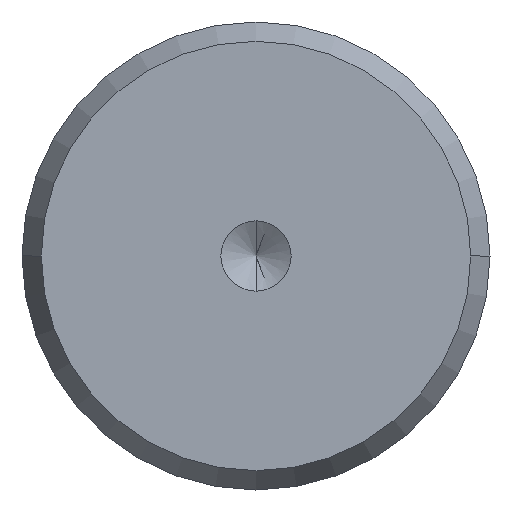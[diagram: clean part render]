
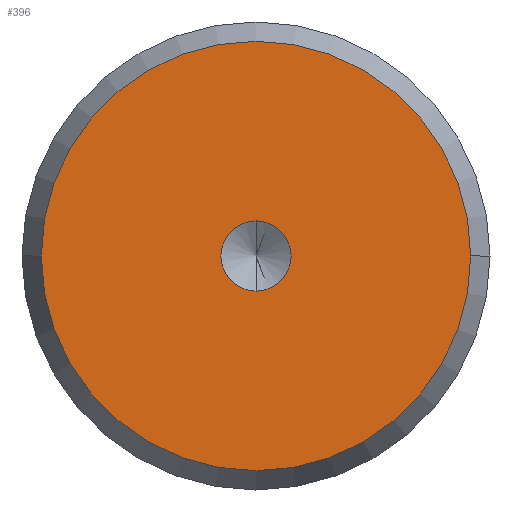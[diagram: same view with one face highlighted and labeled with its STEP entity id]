
A CAD part, front view. The second image highlights one B-rep face of the part: STEP entity #396.
In plain terms, the highlighted planar face has unit normal (0, -1, 0) as drawn and (0, 1, 0) by its records, which use the part's own axes.
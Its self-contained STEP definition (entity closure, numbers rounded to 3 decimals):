
#5 = DIRECTION ( 'NONE',  ( 0., 0., 1. ) ) ;
#28 = CIRCLE ( 'NONE', #423, 12.845 ) ;
#43 = CARTESIAN_POINT ( 'NONE',  ( 0., 26.5, 0. ) ) ;
#53 = EDGE_LOOP ( 'NONE', ( #130, #524 ) ) ;
#56 = EDGE_CURVE ( 'NONE', #640, #139, #336, .T. ) ;
#60 = DIRECTION ( 'NONE',  ( 0., 0., 1. ) ) ;
#88 = CARTESIAN_POINT ( 'NONE',  ( 12.845, 26.5, 0. ) ) ;
#105 = CIRCLE ( 'NONE', #373, 2.1 ) ;
#120 = CARTESIAN_POINT ( 'NONE',  ( 0., 26.5, -2.1 ) ) ;
#130 = ORIENTED_EDGE ( 'NONE', *, *, #164, .T. ) ;
#139 = VERTEX_POINT ( 'NONE', #88 ) ;
#150 = DIRECTION ( 'NONE',  ( 0., 1., 0. ) ) ;
#156 = PLANE ( 'NONE',  #533 ) ;
#164 = EDGE_CURVE ( 'NONE', #139, #640, #28, .T. ) ;
#169 = AXIS2_PLACEMENT_3D ( 'NONE', #689, #172, #5 ) ;
#172 = DIRECTION ( 'NONE',  ( 0., 1., 0. ) ) ;
#226 = FACE_OUTER_BOUND ( 'NONE', #53, .T. ) ;
#229 = DIRECTION ( 'NONE',  ( 0., 1., 0. ) ) ;
#242 = VERTEX_POINT ( 'NONE', #265 ) ;
#248 = ORIENTED_EDGE ( 'NONE', *, *, #270, .F. ) ;
#265 = CARTESIAN_POINT ( 'NONE',  ( 0., 26.5, 2.1 ) ) ;
#270 = EDGE_CURVE ( 'NONE', #242, #459, #337, .T. ) ;
#274 = CARTESIAN_POINT ( 'NONE',  ( 0., 26.5, 0. ) ) ;
#317 = EDGE_CURVE ( 'NONE', #459, #242, #105, .T. ) ;
#323 = FACE_BOUND ( 'NONE', #560, .T. ) ;
#336 = CIRCLE ( 'NONE', #350, 12.845 ) ;
#337 = CIRCLE ( 'NONE', #169, 2.1 ) ;
#350 = AXIS2_PLACEMENT_3D ( 'NONE', #43, #485, #630 ) ;
#368 = CARTESIAN_POINT ( 'NONE',  ( 0., 26.5, 0. ) ) ;
#371 = CARTESIAN_POINT ( 'NONE',  ( -12.845, 26.5, 0. ) ) ;
#373 = AXIS2_PLACEMENT_3D ( 'NONE', #368, #634, #60 ) ;
#396 = ADVANCED_FACE ( 'NONE', ( #323, #226 ), #156, .T. ) ;
#415 = DIRECTION ( 'NONE',  ( -1., 0., 0. ) ) ;
#423 = AXIS2_PLACEMENT_3D ( 'NONE', #581, #150, #415 ) ;
#453 = DIRECTION ( 'NONE',  ( -1., 0., 0. ) ) ;
#459 = VERTEX_POINT ( 'NONE', #120 ) ;
#485 = DIRECTION ( 'NONE',  ( 0., 1., 0. ) ) ;
#524 = ORIENTED_EDGE ( 'NONE', *, *, #56, .T. ) ;
#533 = AXIS2_PLACEMENT_3D ( 'NONE', #274, #229, #453 ) ;
#560 = EDGE_LOOP ( 'NONE', ( #248, #616 ) ) ;
#581 = CARTESIAN_POINT ( 'NONE',  ( 0., 26.5, 0. ) ) ;
#616 = ORIENTED_EDGE ( 'NONE', *, *, #317, .F. ) ;
#630 = DIRECTION ( 'NONE',  ( -1., 0., 0. ) ) ;
#634 = DIRECTION ( 'NONE',  ( 0., 1., 0. ) ) ;
#640 = VERTEX_POINT ( 'NONE', #371 ) ;
#689 = CARTESIAN_POINT ( 'NONE',  ( 0., 26.5, 0. ) ) ;
